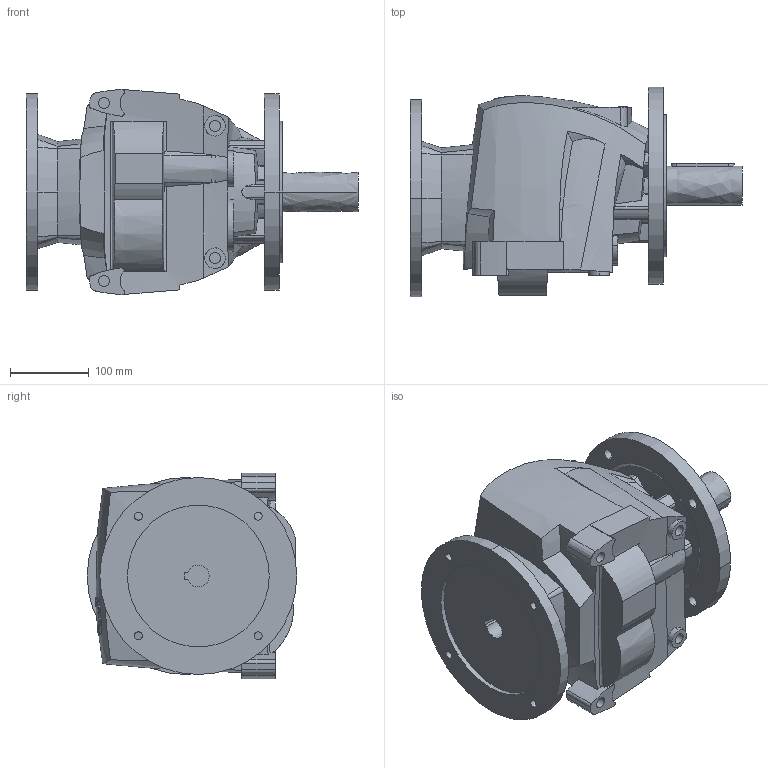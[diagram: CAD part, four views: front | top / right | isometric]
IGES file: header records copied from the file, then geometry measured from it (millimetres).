
Start section:  PTC IGES file: r40_250_pam100112_d2.igs
Global section: file name: r40_250_pam100112_d2.igs; native system: Pro/ENGINEER by Parametric Technology Corporation; preprocessor: 2008230; author: Luca; organization: Unknown; date: 20131127.110654; units: millimetre
Bounding box: 421.5 x 265.98 x 260.56 mm (x, y, z)
Volume: 12187167.3 mm3; surface area: 522395.3 mm2
Topology: 1 solids, 7 shells, 449 faces, 1212 edges, 808 vertices
Faces by surface type: bspline 214, revolution 198, extrusion 37
